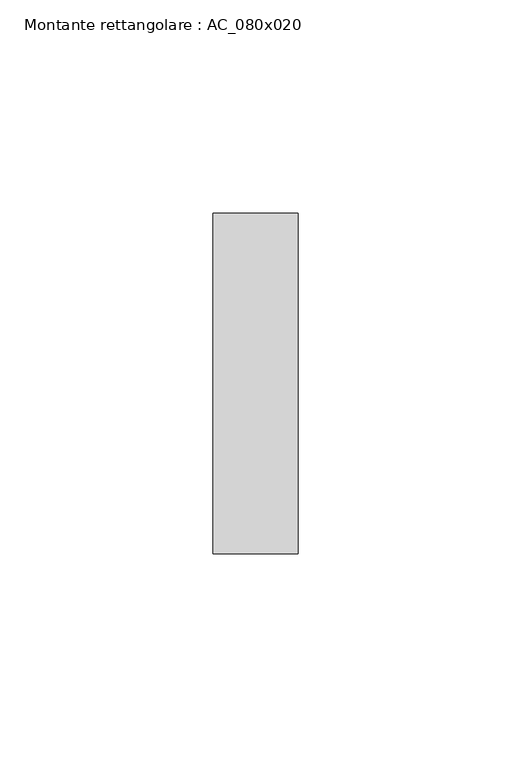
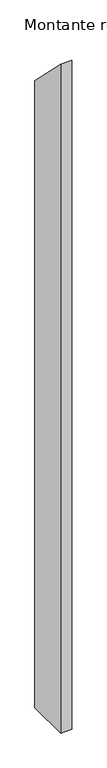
"""IFC4 building model written with IfcOpenShell, lengths in millimetres: member geometry, Montante rettangolare : AC_080x020."""

from ifc_helpers import new_model, si_unit, frame, origin, place, context, project, spatial, polyline, outline, extrude, source, transform, mapped, element, save


def montante_rettangolare_ac_080x020_6e751d40(model_context):
    return source(origin(), model_context, "Body", "SweptSolid", [
        extrude(outline(polyline([(-40.0, 40.0), (40.0, -40.0), (40.0, -1236.1882549), (-40.0, -1236.1882549), (-40.0, 40.0)])), frame((-20.0, 0.0, 0.0), z_axis=(1.0, 0.0, 0.0), x_axis=(0.0, 1.0, 0.0)), (0.0, 0.0, 1.0), 20.0),
    ])


if __name__ == "__main__":
    model = new_model("IFC4")
    model_context = context("Model", 3, world=origin())
    ifc_project = project(units=[si_unit("LENGTHUNIT", "METRE", prefix="MILLI")], contexts=[model_context])
    site = spatial("IfcSite", under=ifc_project)
    building = spatial("IfcBuilding", under=site)
    placement = place(None, origin())
    montante_rettangolare_ac_080x020_shape = montante_rettangolare_ac_080x020_6e751d40(model_context)
    element("IfcMember", 1, ObjectType="Montante rettangolare : AC_080x020", at=placement, inside=building, context=model_context, shape_type="MappedRepresentation", body=[
        mapped(montante_rettangolare_ac_080x020_shape, transform((0.0, 0.0, 0.0), x_axis=(1.0, 0.0, 0.0), y_axis=(0.0, 1.0, 0.0), z_axis=(0.0, 0.0, 1.0))),
    ])
    save(model, "model.ifc")
